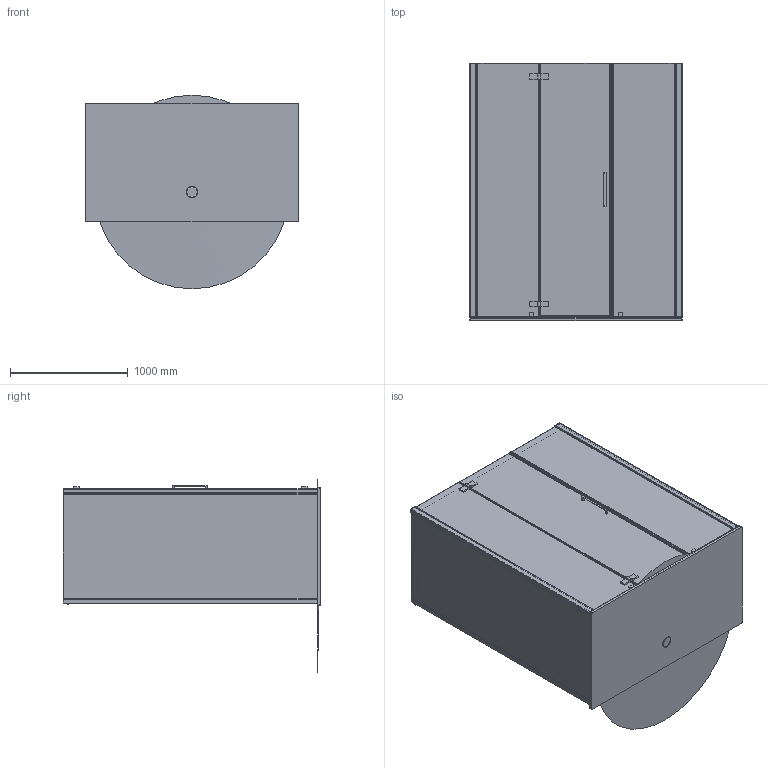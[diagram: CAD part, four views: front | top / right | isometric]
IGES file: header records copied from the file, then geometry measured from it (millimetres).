
Start section: SolidWorks IGES file using analytic representation for surfaces
Global section: file name: D:\Users\M.Szymanski\Desktop\Kabiny\SENSEPEREINCE\03. do przegrania\Senseperience_1800x1000_NL_K3D.IGS; native system: SolidWorks 2011; preprocessor: SolidWorks 2011; author: M.Szymanski; date: 181218.094140; units: millimetre
Bounding box: 1800 x 2180 x 1640.68 mm (x, y, z)
Surface area: 40679483.5 mm2 (no closed solid volume)
Topology: 0 solids, 0 shells, 1834 faces, 12482 edges, 15150 vertices
Faces by surface type: bspline 1190, revolution 644
